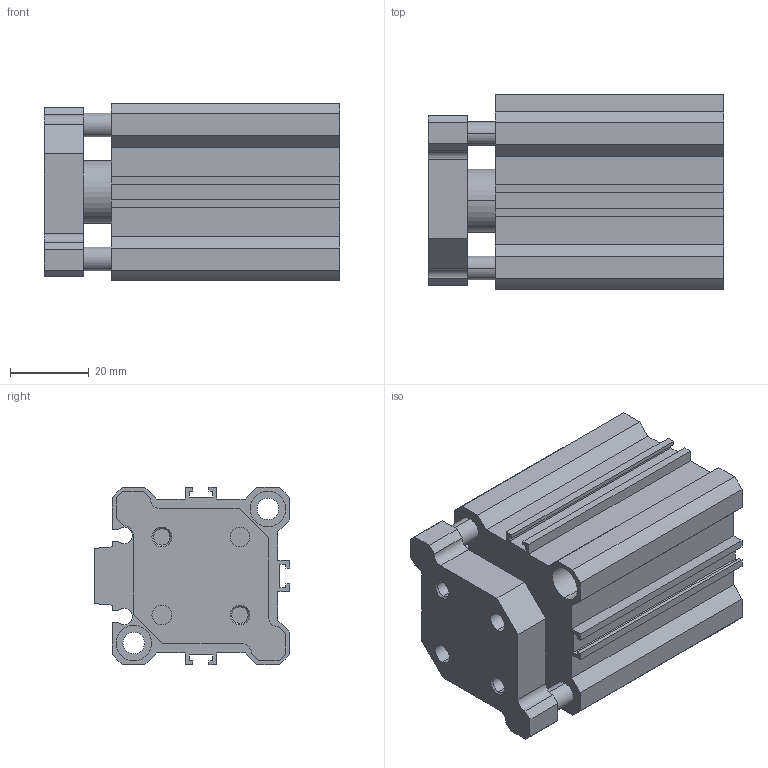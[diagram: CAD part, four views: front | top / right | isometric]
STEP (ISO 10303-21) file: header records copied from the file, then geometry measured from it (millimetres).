
FILE_DESCRIPTION (( 'STEP AP203' ), '1' );
FILE_NAME ('CCMG32-25.STEP', '2020-04-01T18:40:01', ( '' ), ( '' ), 'SwSTEP 2.0', 'SolidWorks 2019', '' );
FILE_SCHEMA (( 'CONFIG_CONTROL_DESIGN' ));
Length unit declared in the file: millimetre
Products named in the file (1): CCMG32-25
Bounding box: 75 x 49.5 x 45 mm (x, y, z)
Volume: 100970.7 mm3; surface area: 38318.6 mm2
Topology: 2 solids, 2 shells, 165 faces, 431 edges, 280 vertices
Faces by surface type: plane 92, cylinder 57, cone 16
Entity records: 5134 total; most frequent: DIRECTION 885, CARTESIAN_POINT 873, ORIENTED_EDGE 854, EDGE_CURVE 427, LINE 301, VECTOR 301, AXIS2_PLACEMENT_3D 292, VERTEX_POINT 280
